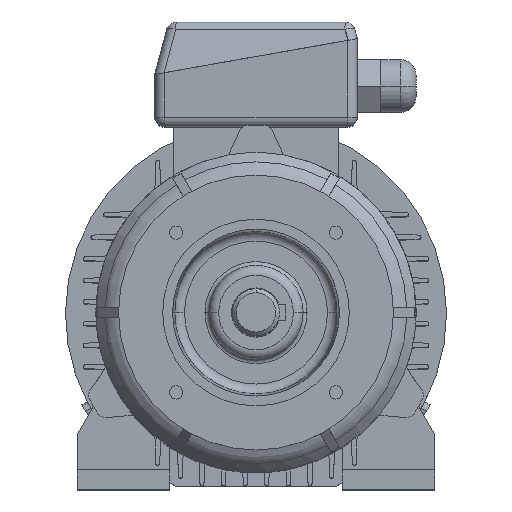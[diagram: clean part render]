
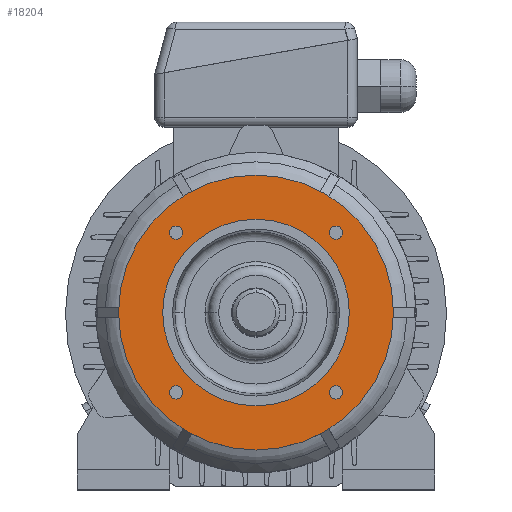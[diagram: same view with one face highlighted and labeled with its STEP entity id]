
A CAD part, top view. The second image highlights one B-rep face of the part: STEP entity #18204.
In plain terms, the highlighted planar face has unit normal (0, 0, 1).
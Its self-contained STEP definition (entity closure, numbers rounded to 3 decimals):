
#16547 = ORIENTED_EDGE ( 'NONE', *, *, #3889, .T. ) ;
#16654 = VERTEX_POINT ( 'NONE', #16229 ) ;
#16729 = EDGE_CURVE ( 'NONE', #9805, #16654, #16289, .T. ) ;
#16909 = CARTESIAN_POINT ( 'NONE',  ( -47.5, 0., 40. ) ) ;
#666 = VERTEX_POINT ( 'NONE', #21410 ) ;
#17050 = CIRCLE ( 'NONE', #17056, 47.5 ) ;
#17056 = AXIS2_PLACEMENT_3D ( 'NONE', #17057, #17058, #17059 ) ;
#17057 = CARTESIAN_POINT ( 'NONE',  ( 0., 0., 40. ) ) ;
#17058 = DIRECTION ( 'NONE',  ( 0., 0., -1. ) ) ;
#17059 = DIRECTION ( 'NONE',  ( -1., 0., 0. ) ) ;
#811 = EDGE_CURVE ( 'NONE', #5119, #666, #21651, .T. ) ;
#17217 = ORIENTED_EDGE ( 'NONE', *, *, #17411, .T. ) ;
#17221 = VERTEX_POINT ( 'NONE', #16909 ) ;
#905 = CIRCLE ( 'NONE', #906, 47.5 ) ;
#906 = AXIS2_PLACEMENT_3D ( 'NONE', #907, #908, #909 ) ;
#907 = CARTESIAN_POINT ( 'NONE',  ( 0., 0., 40. ) ) ;
#908 = DIRECTION ( 'NONE',  ( 0., 0., -1. ) ) ;
#909 = DIRECTION ( 'NONE',  ( -1., 0., 0. ) ) ;
#17411 = EDGE_CURVE ( 'NONE', #17221, #4413, #17050, .T. ) ;
#17641 = CARTESIAN_POINT ( 'NONE',  ( 44.059, -40.659, 40. ) ) ;
#1279 = ORIENTED_EDGE ( 'NONE', *, *, #811, .F. ) ;
#1453 = CARTESIAN_POINT ( 'NONE',  ( -37.259, 40.659, 40. ) ) ;
#17882 = EDGE_LOOP ( 'NONE', ( #17217, #16547 ) ) ;
#17886 = VERTEX_POINT ( 'NONE', #17641 ) ;
#17974 = CIRCLE ( 'NONE', #17975, 3.4 ) ;
#17975 = AXIS2_PLACEMENT_3D ( 'NONE', #17976, #17977, #17978 ) ;
#17976 = CARTESIAN_POINT ( 'NONE',  ( 40.659, -40.659, 40. ) ) ;
#17977 = DIRECTION ( 'NONE',  ( 0., 0., 1. ) ) ;
#17978 = DIRECTION ( 'NONE',  ( 1., 0., 0. ) ) ;
#1611 = CARTESIAN_POINT ( 'NONE',  ( 47.5, 0., 40. ) ) ;
#18004 = FACE_BOUND ( 'NONE', #17882, .T. ) ;
#18005 = FACE_OUTER_BOUND ( 'NONE', #3550, .T. ) ;
#18013 = FACE_BOUND ( 'NONE', #1931, .T. ) ;
#18014 = FACE_BOUND ( 'NONE', #25887, .T. ) ;
#18015 = FACE_BOUND ( 'NONE', #9564, .T. ) ;
#18016 = FACE_BOUND ( 'NONE', #7474, .T. ) ;
#18017 = PLANE ( 'NONE',  #18018 ) ;
#18018 = AXIS2_PLACEMENT_3D ( 'NONE', #18019, #18020, #18021 ) ;
#18019 = CARTESIAN_POINT ( 'NONE',  ( -70., 0., 40. ) ) ;
#18020 = DIRECTION ( 'NONE',  ( 0., 0., 1. ) ) ;
#18021 = DIRECTION ( 'NONE',  ( 1., 0., 0. ) ) ;
#18181 = EDGE_CURVE ( 'NONE', #6559, #17886, #17974, .T. ) ;
#18204 = ADVANCED_FACE ( 'NONE', ( #18004, #18005, #18013, #18014, #18015, #18016 ), #18017, .T. ) ;
#1931 = EDGE_LOOP ( 'NONE', ( #1279, #26407 ) ) ;
#2247 = ORIENTED_EDGE ( 'NONE', *, *, #19980, .F. ) ;
#2468 = VERTEX_POINT ( 'NONE', #25735 ) ;
#2749 = VERTEX_POINT ( 'NONE', #26059 ) ;
#2897 = ORIENTED_EDGE ( 'NONE', *, *, #3259, .F. ) ;
#3073 = CARTESIAN_POINT ( 'NONE',  ( -37.259, -40.659, 40. ) ) ;
#3259 = EDGE_CURVE ( 'NONE', #2749, #2468, #26462, .T. ) ;
#3550 = EDGE_LOOP ( 'NONE', ( #2897, #2247 ) ) ;
#19956 = CIRCLE ( 'NONE', #19957, 70. ) ;
#19957 = AXIS2_PLACEMENT_3D ( 'NONE', #19963, #19964, #19965 ) ;
#19963 = CARTESIAN_POINT ( 'NONE',  ( 0., 0., 40. ) ) ;
#19964 = DIRECTION ( 'NONE',  ( 0., 0., -1. ) ) ;
#19965 = DIRECTION ( 'NONE',  ( -1., 0., 0. ) ) ;
#19980 = EDGE_CURVE ( 'NONE', #2468, #2749, #19956, .T. ) ;
#3889 = EDGE_CURVE ( 'NONE', #4413, #17221, #905, .T. ) ;
#4219 = VERTEX_POINT ( 'NONE', #1453 ) ;
#4413 = VERTEX_POINT ( 'NONE', #1611 ) ;
#4516 = CIRCLE ( 'NONE', #4517, 3.4 ) ;
#4517 = AXIS2_PLACEMENT_3D ( 'NONE', #4518, #4519, #4520 ) ;
#4518 = CARTESIAN_POINT ( 'NONE',  ( -40.659, 40.659, 40. ) ) ;
#4519 = DIRECTION ( 'NONE',  ( 0., 0., 1. ) ) ;
#4520 = DIRECTION ( 'NONE',  ( 1., 0., 0. ) ) ;
#4701 = CARTESIAN_POINT ( 'NONE',  ( 37.259, -40.659, 40. ) ) ;
#21410 = CARTESIAN_POINT ( 'NONE',  ( -44.059, -40.659, 40. ) ) ;
#5119 = VERTEX_POINT ( 'NONE', #3073 ) ;
#21651 = CIRCLE ( 'NONE', #21652, 3.4 ) ;
#21652 = AXIS2_PLACEMENT_3D ( 'NONE', #21653, #21654, #21681 ) ;
#21653 = CARTESIAN_POINT ( 'NONE',  ( -40.659, -40.659, 40. ) ) ;
#21654 = DIRECTION ( 'NONE',  ( 0., 0., 1. ) ) ;
#21681 = DIRECTION ( 'NONE',  ( 1., 0., 0. ) ) ;
#5693 = ORIENTED_EDGE ( 'NONE', *, *, #9235, .F. ) ;
#6348 = EDGE_CURVE ( 'NONE', #4219, #12490, #4516, .T. ) ;
#6559 = VERTEX_POINT ( 'NONE', #4701 ) ;
#6599 = CIRCLE ( 'NONE', #6609, 3.4 ) ;
#6609 = AXIS2_PLACEMENT_3D ( 'NONE', #6610, #6611, #6612 ) ;
#6610 = CARTESIAN_POINT ( 'NONE',  ( 40.659, 40.659, 40. ) ) ;
#6611 = DIRECTION ( 'NONE',  ( 0., 0., 1. ) ) ;
#6612 = DIRECTION ( 'NONE',  ( 1., 0., 0. ) ) ;
#6830 = ORIENTED_EDGE ( 'NONE', *, *, #6348, .F. ) ;
#7452 = CIRCLE ( 'NONE', #7453, 3.4 ) ;
#7453 = AXIS2_PLACEMENT_3D ( 'NONE', #7454, #7455, #7456 ) ;
#7454 = CARTESIAN_POINT ( 'NONE',  ( -40.659, 40.659, 40. ) ) ;
#7455 = DIRECTION ( 'NONE',  ( 0., 0., 1. ) ) ;
#7456 = DIRECTION ( 'NONE',  ( 1., 0., 0. ) ) ;
#7474 = EDGE_LOOP ( 'NONE', ( #6830, #5693 ) ) ;
#23978 = CIRCLE ( 'NONE', #23979, 3.4 ) ;
#23979 = AXIS2_PLACEMENT_3D ( 'NONE', #23980, #23981, #23982 ) ;
#23980 = CARTESIAN_POINT ( 'NONE',  ( 40.659, -40.659, 40. ) ) ;
#23981 = DIRECTION ( 'NONE',  ( 0., 0., 1. ) ) ;
#23982 = DIRECTION ( 'NONE',  ( 1., 0., 0. ) ) ;
#23992 = EDGE_CURVE ( 'NONE', #17886, #6559, #23978, .T. ) ;
#7776 = ORIENTED_EDGE ( 'NONE', *, *, #16729, .F. ) ;
#8359 = CARTESIAN_POINT ( 'NONE',  ( 37.259, 40.659, 40. ) ) ;
#24785 = ORIENTED_EDGE ( 'NONE', *, *, #23992, .F. ) ;
#8431 = EDGE_CURVE ( 'NONE', #16654, #9805, #6599, .T. ) ;
#8885 = ORIENTED_EDGE ( 'NONE', *, *, #8431, .F. ) ;
#9235 = EDGE_CURVE ( 'NONE', #12490, #4219, #7452, .T. ) ;
#25735 = CARTESIAN_POINT ( 'NONE',  ( 70., 0., 40. ) ) ;
#25887 = EDGE_LOOP ( 'NONE', ( #24785, #9883 ) ) ;
#9564 = EDGE_LOOP ( 'NONE', ( #8885, #7776 ) ) ;
#26059 = CARTESIAN_POINT ( 'NONE',  ( -70., 0., 40. ) ) ;
#9805 = VERTEX_POINT ( 'NONE', #8359 ) ;
#9883 = ORIENTED_EDGE ( 'NONE', *, *, #18181, .F. ) ;
#26407 = ORIENTED_EDGE ( 'NONE', *, *, #12725, .F. ) ;
#26462 = CIRCLE ( 'NONE', #26463, 70. ) ;
#26463 = AXIS2_PLACEMENT_3D ( 'NONE', #26464, #26465, #26466 ) ;
#26464 = CARTESIAN_POINT ( 'NONE',  ( 0., 0., 40. ) ) ;
#26465 = DIRECTION ( 'NONE',  ( 0., 0., -1. ) ) ;
#26466 = DIRECTION ( 'NONE',  ( -1., 0., 0. ) ) ;
#11651 = CARTESIAN_POINT ( 'NONE',  ( -44.059, 40.659, 40. ) ) ;
#11867 = CIRCLE ( 'NONE', #11868, 3.4 ) ;
#11868 = AXIS2_PLACEMENT_3D ( 'NONE', #11869, #11870, #11871 ) ;
#11869 = CARTESIAN_POINT ( 'NONE',  ( -40.659, -40.659, 40. ) ) ;
#11870 = DIRECTION ( 'NONE',  ( 0., 0., 1. ) ) ;
#11871 = DIRECTION ( 'NONE',  ( 1., 0., 0. ) ) ;
#12490 = VERTEX_POINT ( 'NONE', #11651 ) ;
#12725 = EDGE_CURVE ( 'NONE', #666, #5119, #11867, .T. ) ;
#16229 = CARTESIAN_POINT ( 'NONE',  ( 44.059, 40.659, 40. ) ) ;
#16289 = CIRCLE ( 'NONE', #16290, 3.4 ) ;
#16290 = AXIS2_PLACEMENT_3D ( 'NONE', #16291, #16292, #16293 ) ;
#16291 = CARTESIAN_POINT ( 'NONE',  ( 40.659, 40.659, 40. ) ) ;
#16292 = DIRECTION ( 'NONE',  ( 0., 0., 1. ) ) ;
#16293 = DIRECTION ( 'NONE',  ( 1., 0., 0. ) ) ;
